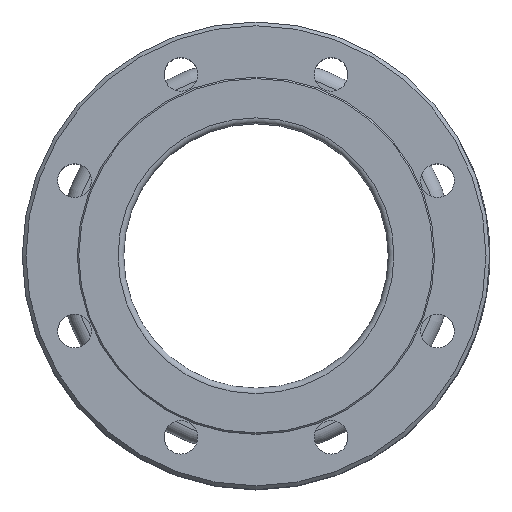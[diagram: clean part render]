
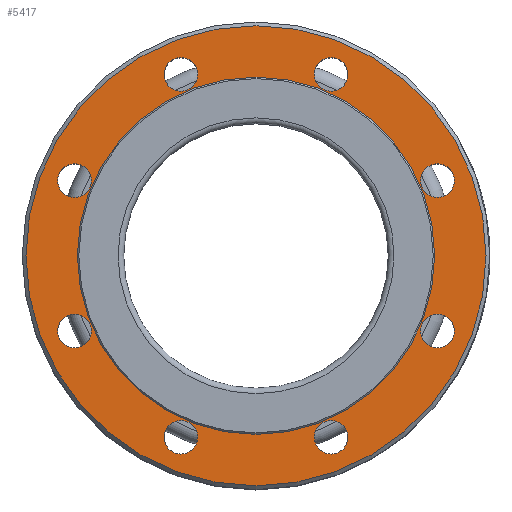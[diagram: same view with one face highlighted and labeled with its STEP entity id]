
A CAD part, top view. The second image highlights one B-rep face of the part: STEP entity #5417.
In plain terms, the highlighted planar face has unit normal (0, 0, 1).
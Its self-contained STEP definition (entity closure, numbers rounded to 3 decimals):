
#1094=FACE_BOUND('',#1698,.T.);
#1095=FACE_BOUND('',#1699,.T.);
#1096=FACE_BOUND('',#1700,.T.);
#1097=FACE_BOUND('',#1701,.T.);
#1098=FACE_BOUND('',#1702,.T.);
#1099=FACE_BOUND('',#1703,.T.);
#1100=FACE_BOUND('',#1704,.T.);
#1101=FACE_BOUND('',#1705,.T.);
#1102=FACE_BOUND('',#1706,.T.);
#1379=FACE_OUTER_BOUND('',#1697,.T.);
#1697=EDGE_LOOP('',(#4512));
#1698=EDGE_LOOP('',(#4513));
#1699=EDGE_LOOP('',(#4514));
#1700=EDGE_LOOP('',(#4515));
#1701=EDGE_LOOP('',(#4516));
#1702=EDGE_LOOP('',(#4517));
#1703=EDGE_LOOP('',(#4518));
#1704=EDGE_LOOP('',(#4519));
#1705=EDGE_LOOP('',(#4520));
#1706=EDGE_LOOP('',(#4521));
#1945=CIRCLE('',#5828,123.);
#1946=CIRCLE('',#5831,95.5);
#1947=CIRCLE('',#5832,9.);
#1948=CIRCLE('',#5833,9.);
#1949=CIRCLE('',#5834,9.);
#1950=CIRCLE('',#5835,9.);
#1951=CIRCLE('',#5836,9.);
#1952=CIRCLE('',#5837,9.);
#1953=CIRCLE('',#5838,9.);
#1954=CIRCLE('',#5839,9.);
#2457=VERTEX_POINT('',#11282);
#2458=VERTEX_POINT('',#11287);
#2459=VERTEX_POINT('',#11289);
#2460=VERTEX_POINT('',#11291);
#2461=VERTEX_POINT('',#11293);
#2462=VERTEX_POINT('',#11295);
#2463=VERTEX_POINT('',#11297);
#2464=VERTEX_POINT('',#11299);
#2465=VERTEX_POINT('',#11301);
#2466=VERTEX_POINT('',#11303);
#3152=EDGE_CURVE('',#2457,#2457,#1945,.T.);
#3154=EDGE_CURVE('',#2458,#2458,#1946,.T.);
#3155=EDGE_CURVE('',#2459,#2459,#1947,.T.);
#3156=EDGE_CURVE('',#2460,#2460,#1948,.T.);
#3157=EDGE_CURVE('',#2461,#2461,#1949,.T.);
#3158=EDGE_CURVE('',#2462,#2462,#1950,.T.);
#3159=EDGE_CURVE('',#2463,#2463,#1951,.T.);
#3160=EDGE_CURVE('',#2464,#2464,#1952,.T.);
#3161=EDGE_CURVE('',#2465,#2465,#1953,.T.);
#3162=EDGE_CURVE('',#2466,#2466,#1954,.T.);
#4512=ORIENTED_EDGE('',*,*,#3152,.T.);
#4513=ORIENTED_EDGE('',*,*,#3154,.T.);
#4514=ORIENTED_EDGE('',*,*,#3155,.F.);
#4515=ORIENTED_EDGE('',*,*,#3156,.F.);
#4516=ORIENTED_EDGE('',*,*,#3157,.F.);
#4517=ORIENTED_EDGE('',*,*,#3158,.F.);
#4518=ORIENTED_EDGE('',*,*,#3159,.F.);
#4519=ORIENTED_EDGE('',*,*,#3160,.F.);
#4520=ORIENTED_EDGE('',*,*,#3161,.F.);
#4521=ORIENTED_EDGE('',*,*,#3162,.F.);
#4803=PLANE('',#5830);
#5417=ADVANCED_FACE('',(#1379,#1094,#1095,#1096,#1097,#1098,#1099,#1100,
#1101,#1102),#4803,.F.);
#5828=AXIS2_PLACEMENT_3D('',#11283,#6949,#6950);
#5830=AXIS2_PLACEMENT_3D('',#11286,#6954,#6955);
#5831=AXIS2_PLACEMENT_3D('',#11288,#6956,#6957);
#5832=AXIS2_PLACEMENT_3D('',#11290,#6958,#6959);
#5833=AXIS2_PLACEMENT_3D('',#11292,#6960,#6961);
#5834=AXIS2_PLACEMENT_3D('',#11294,#6962,#6963);
#5835=AXIS2_PLACEMENT_3D('',#11296,#6964,#6965);
#5836=AXIS2_PLACEMENT_3D('',#11298,#6966,#6967);
#5837=AXIS2_PLACEMENT_3D('',#11300,#6968,#6969);
#5838=AXIS2_PLACEMENT_3D('',#11302,#6970,#6971);
#5839=AXIS2_PLACEMENT_3D('',#11304,#6972,#6973);
#6949=DIRECTION('center_axis',(0.,0.,1.));
#6950=DIRECTION('ref_axis',(0.,-1.,0.));
#6954=DIRECTION('center_axis',(0.,0.,-1.));
#6955=DIRECTION('ref_axis',(-1.,0.,0.));
#6956=DIRECTION('center_axis',(0.,0.,-1.));
#6957=DIRECTION('ref_axis',(1.,0.,0.));
#6958=DIRECTION('center_axis',(0.,0.,1.));
#6959=DIRECTION('ref_axis',(-1.,0.,0.));
#6960=DIRECTION('center_axis',(0.,0.,1.));
#6961=DIRECTION('ref_axis',(-1.,0.,0.));
#6962=DIRECTION('center_axis',(0.,0.,1.));
#6963=DIRECTION('ref_axis',(-1.,0.,0.));
#6964=DIRECTION('center_axis',(0.,0.,1.));
#6965=DIRECTION('ref_axis',(-1.,0.,0.));
#6966=DIRECTION('center_axis',(0.,0.,1.));
#6967=DIRECTION('ref_axis',(-1.,0.,0.));
#6968=DIRECTION('center_axis',(0.,0.,1.));
#6969=DIRECTION('ref_axis',(-1.,0.,0.));
#6970=DIRECTION('center_axis',(0.,0.,1.));
#6971=DIRECTION('ref_axis',(-1.,0.,0.));
#6972=DIRECTION('center_axis',(0.,0.,1.));
#6973=DIRECTION('ref_axis',(-1.,0.,0.));
#11282=CARTESIAN_POINT('',(0.,123.,65.));
#11283=CARTESIAN_POINT('Origin',(0.,0.,65.));
#11286=CARTESIAN_POINT('Origin',(0.,70.75,65.));
#11287=CARTESIAN_POINT('',(-95.5,0.,65.));
#11288=CARTESIAN_POINT('Origin',(0.,0.,65.));
#11289=CARTESIAN_POINT('',(-31.182,-97.007,65.));
#11290=CARTESIAN_POINT('Origin',(-40.182,-97.007,65.));
#11291=CARTESIAN_POINT('',(106.007,-40.182,65.));
#11292=CARTESIAN_POINT('Origin',(97.007,-40.182,65.));
#11293=CARTESIAN_POINT('',(-31.182,97.007,65.));
#11294=CARTESIAN_POINT('Origin',(-40.182,97.007,65.));
#11295=CARTESIAN_POINT('',(49.182,97.007,65.));
#11296=CARTESIAN_POINT('Origin',(40.182,97.007,65.));
#11297=CARTESIAN_POINT('',(-88.007,-40.182,65.));
#11298=CARTESIAN_POINT('Origin',(-97.007,-40.182,65.));
#11299=CARTESIAN_POINT('',(49.182,-97.007,65.));
#11300=CARTESIAN_POINT('Origin',(40.182,-97.007,65.));
#11301=CARTESIAN_POINT('',(-88.007,40.182,65.));
#11302=CARTESIAN_POINT('Origin',(-97.007,40.182,65.));
#11303=CARTESIAN_POINT('',(106.007,40.182,65.));
#11304=CARTESIAN_POINT('Origin',(97.007,40.182,65.));
